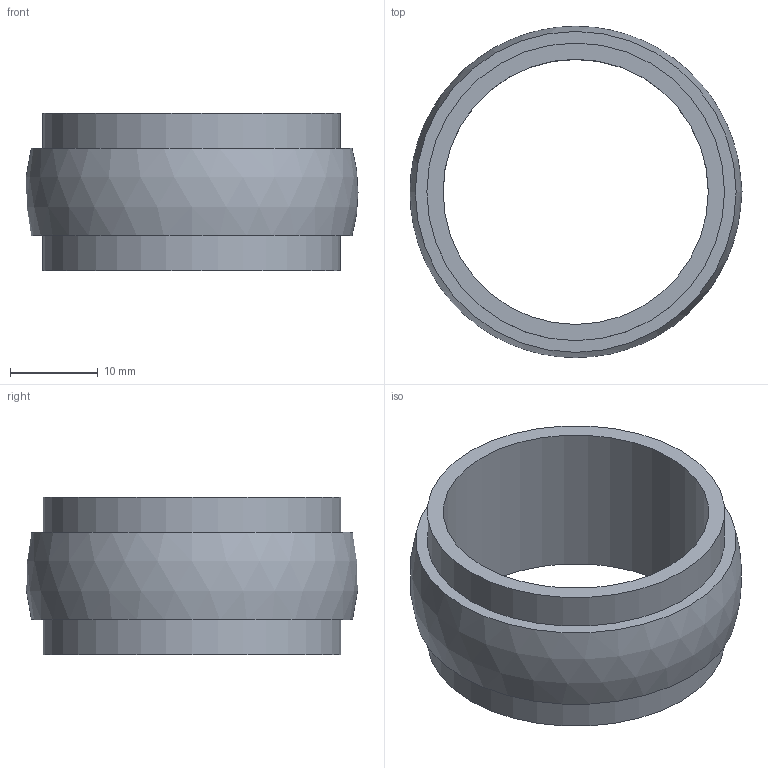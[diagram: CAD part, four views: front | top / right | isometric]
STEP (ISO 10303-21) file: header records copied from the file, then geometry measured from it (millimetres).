
FILE_DESCRIPTION(('FreeCAD Model'),'2;1');
FILE_NAME('Open CASCADE Shape Model','2026-10-30T15:57:33',('FreeCAD'),( 'FreeCAD'),'Open CASCADE STEP processor 7.8','FreeCAD','Unknown');
FILE_SCHEMA(('AUTOMOTIVE_DESIGN { 1 0 10303 214 1 1 1 1 }'));
Length unit declared in the file: millimetre
Products named in the file (1): Open CASCADE STEP translator 7.8 6
Bounding box: 37.93 x 37.85 x 18 mm (x, y, z)
Volume: 5363.5 mm3; surface area: 4430.8 mm2
Topology: 1 solids, 1 shells, 8 faces, 12 edges, 8 vertices
Faces by surface type: plane 4, cylinder 3, sphere 1
Full cylindrical faces by diameter (mm): 30.3 x1, 34 x2
Entity records: 199 total; most frequent: DIRECTION 39, CARTESIAN_POINT 29, ORIENTED_EDGE 24, AXIS2_PLACEMENT_3D 18, FACE_BOUND 12, EDGE_LOOP 12, EDGE_CURVE 12, CIRCLE 9
